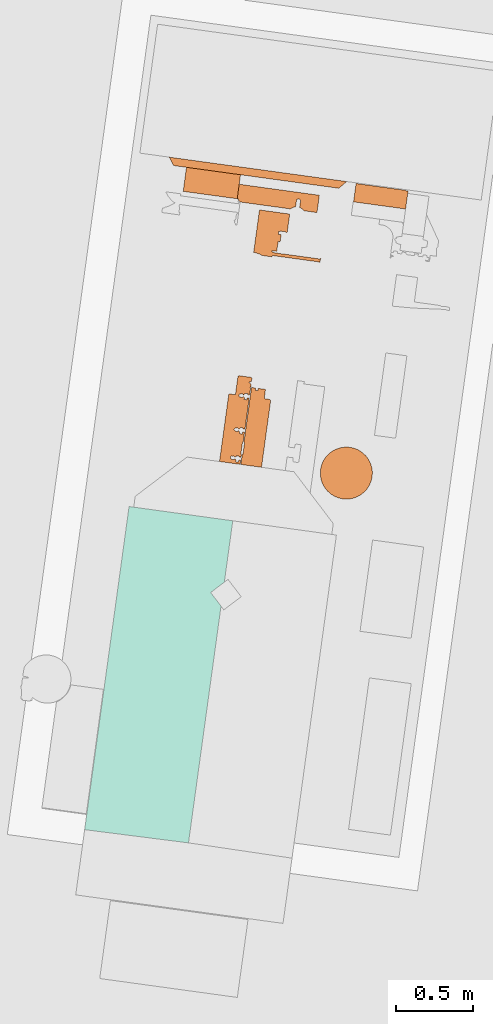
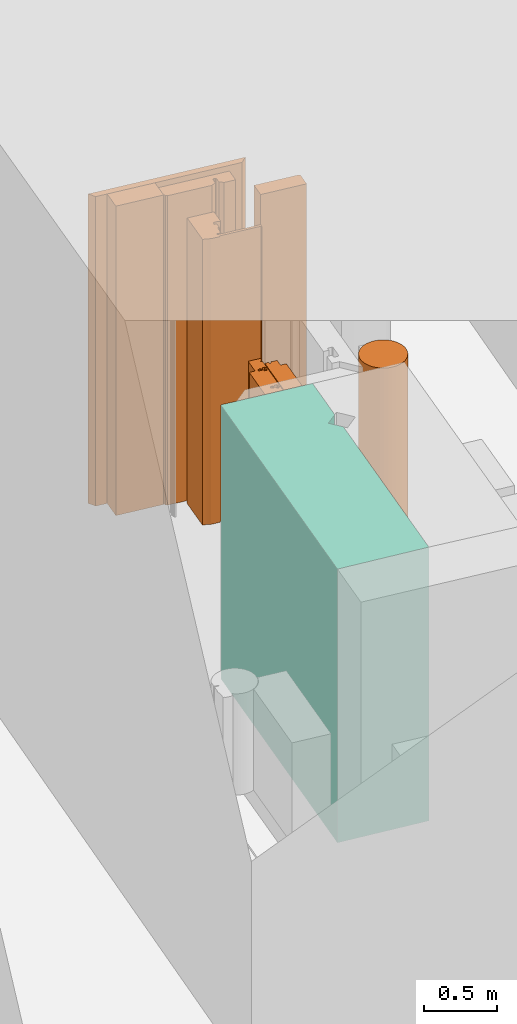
# Not in any storey, part 55 of 75: 8 proxies, plus 1 element that does not belong to this part.
"""IFC4 model written with IfcOpenShell, lengths in metres."""

from ifc_helpers import new_model, si_unit, direction, origin_with_axes, place, context, subcontext, project, spatial, triangles, element, aggregate, save


model = new_model("IFC4")

# Units and contexts
model_context = context("Model", 3, precision=1e-05, world=origin_with_axes(), true_north=direction((0.0, 1.0)))
body_context = subcontext(model_context, "Body", "Model", "MODEL_VIEW")
ifc_project = project(units=[si_unit("AREAUNIT", "SQUARE_METRE"), si_unit("VOLUMEUNIT", "CUBIC_METRE"), si_unit("LENGTHUNIT", "METRE")], contexts=[model_context])

# Site
site_placement = place(None, origin_with_axes())
site = spatial("IfcSite", under=ifc_project, at=site_placement, Name="Parcela industrial Jinhong")

# Compressor, proxies
compressor_placement = place(site_placement, origin_with_axes())
compressor = element("IfcCompressor", 1, at=compressor_placement, inside=site, Name="Compresor de aire AC1001C · Carcasa principal · región CAD 1", ObjectType="Envolvente de equipo", PredefinedType="USERDEFINED", context=body_context, shape_type="Tessellation", body=[
    triangles([(62.203534, 71.486232, 3.95), (61.527692, 71.57915, 3.95), (62.148549, 71.086294, 3.95), (61.527692, 71.57915, 1.65), (62.203534, 71.486232, 1.65), (62.148549, 71.086294, 1.65), (61.238041, 69.472368, 3.95), (61.914823, 69.386286, 3.95), (61.914823, 69.386286, 1.65), (61.238041, 69.472368, 1.65), (62.059412, 71.018705, 3.95), (62.127001, 70.929568, 3.95), (62.127001, 70.929568, 1.65), (62.059412, 71.018705, 1.65)], [[1, 2, 3], [4, 5, 6], [2, 7, 8], [9, 10, 4], [8, 12, 11], [13, 9, 14], [3, 2, 11], [4, 6, 14], [2, 8, 11], [14, 9, 4], [4, 10, 7], [4, 7, 2], [10, 9, 8], [10, 8, 7], [9, 13, 12], [9, 12, 8], [11, 13, 14], [11, 12, 13], [14, 6, 3], [14, 3, 11], [6, 5, 1], [1, 3, 6], [5, 4, 2], [5, 2, 1]], closed=True),
])
proxy_1_placement = place(compressor_placement, origin_with_axes())
proxy_1 = element("IfcBuildingElementProxy", 2, at=proxy_1_placement, Name="Compresor de aire AC1001C · Cuerpo de equipo · región CAD 14", context=body_context, shape_type="Tessellation", body=[
    triangles([(62.318886, 72.394989, 3.55), (62.311365, 72.391683, 3.55), (62.318409, 72.391522, 3.55), (62.311365, 72.391683, 1.65), (62.318886, 72.394989, 1.65), (62.318409, 72.391522, 1.65), (62.3288, 72.416439, 3.55), (62.319801, 72.395772, 3.55), (62.325844, 72.394941, 3.55), (62.3288, 72.416439, 1.65), (62.325844, 72.394941, 1.65), (62.319801, 72.395772, 1.65), (62.325125, 72.421284, 3.55), (62.244979, 72.432303, 3.55), (62.327908, 72.416561, 3.55), (62.244979, 72.432303, 1.65), (62.325125, 72.421284, 1.65), (62.327908, 72.416561, 1.65), (62.238681, 72.430545, 3.55), (62.237558, 72.428983, 3.55), (62.237558, 72.428983, 1.65), (62.238681, 72.430545, 1.65), (62.220982, 72.308417, 3.55), (62.184822, 72.313389, 3.55), (62.179439, 72.312413, 3.55), (62.179439, 72.312413, 1.65), (62.184822, 72.313389, 1.65), (62.220982, 72.308417, 1.65), (62.177424, 72.310974, 3.55), (62.117168, 71.872697, 3.55), (62.117168, 71.872697, 1.65), (62.177424, 72.310974, 1.65), (62.255168, 71.880877, 3.55), (62.245756, 71.882171, 3.55), (62.251504, 71.854227, 3.55), (62.245756, 71.882171, 1.65), (62.255168, 71.880877, 1.65), (62.251504, 71.854227, 1.65), (62.245525, 71.880487, 3.55), (62.242057, 71.880963, 3.55), (62.240396, 71.868877, 3.55), (62.242057, 71.880963, 1.65), (62.245525, 71.880487, 1.65), (62.240396, 71.868877, 1.65), (62.223928, 71.883456, 3.55), (62.2199, 71.885726, 3.55), (62.222266, 71.87137, 3.55), (62.2199, 71.885726, 1.65), (62.223928, 71.883456, 1.65), (62.222266, 71.87137, 1.65), (62.220376, 71.889193, 3.55), (62.21375, 71.890104, 3.55), (62.21375, 71.890104, 1.65), (62.220376, 71.889193, 1.65), (62.20309, 71.884605, 3.55), (62.198402, 71.888681, 3.55), (62.192359, 71.889512, 3.55), (62.192359, 71.889512, 1.65), (62.198402, 71.888681, 1.65), (62.20309, 71.884605, 1.65), (62.202933, 71.909155, 3.55), (62.194851, 71.907642, 3.55), (62.200894, 71.906811, 3.55), (62.194851, 71.907642, 1.65), (62.202933, 71.909155, 1.65), (62.200894, 71.906811, 1.65), (62.222038, 71.901279, 3.55), (62.212443, 71.907847, 3.55), (62.215103, 71.902233, 3.55), (62.212443, 71.907847, 1.65), (62.222038, 71.901279, 1.65), (62.215103, 71.902233, 1.65), (62.227714, 71.910997, 3.55), (62.222624, 71.905539, 3.55), (62.226884, 71.904954, 3.55), (62.227714, 71.910997, 1.65), (62.226884, 71.904954, 1.65), (62.222624, 71.905539, 1.65), (62.245844, 71.908504, 3.55), (62.245013, 71.902461, 3.55), (62.24848, 71.901984, 3.55), (62.245844, 71.908504, 1.65), (62.24848, 71.901984, 1.65), (62.245013, 71.902461, 1.65), (62.257783, 71.899898, 3.55), (62.248371, 71.901192, 3.55), (62.248371, 71.901192, 1.65), (62.257783, 71.899898, 1.65), (62.260493, 71.919612, 3.55), (62.256233, 71.920198, 3.55), (62.256233, 71.920198, 1.65), (62.260493, 71.919612, 1.65), (62.280379, 72.064252, 3.55), (62.26713, 71.999453, 3.55), (62.27139, 71.998867, 3.55), (62.280379, 72.064252, 1.65), (62.27139, 71.998867, 1.65), (62.26713, 71.999453, 1.65), (62.270968, 72.065546, 3.55), (62.267269, 72.064338, 3.55), (62.267269, 72.064338, 1.65), (62.270968, 72.065546, 1.65), (62.249139, 72.066831, 3.55), (62.245111, 72.069101, 3.55), (62.247478, 72.054745, 3.55), (62.245111, 72.069101, 1.65), (62.249139, 72.066831, 1.65), (62.247478, 72.054745, 1.65), (62.245588, 72.072568, 3.55), (62.238927, 72.073484, 3.55), (62.238927, 72.073484, 1.65), (62.245588, 72.072568, 1.65), (62.228302, 72.06798, 3.55), (62.223613, 72.072056, 3.55), (62.21757, 72.072887, 3.55), (62.21757, 72.072887, 1.65), (62.223613, 72.072056, 1.65), (62.228302, 72.06798, 1.65), (62.228144, 72.09253, 3.55), (62.220063, 72.091017, 3.55), (62.226106, 72.090186, 3.55), (62.220063, 72.091017, 1.65), (62.228144, 72.09253, 1.65), (62.226106, 72.090186, 1.65), (62.247249, 72.084654, 3.55), (62.237655, 72.091222, 3.55), (62.240315, 72.085608, 3.55), (62.237655, 72.091222, 1.65), (62.247249, 72.084654, 1.65), (62.240315, 72.085608, 1.65), (62.252926, 72.094372, 3.55), (62.247835, 72.088914, 3.55), (62.252095, 72.088329, 3.55), (62.252926, 72.094372, 1.65), (62.252095, 72.088329, 1.65), (62.247835, 72.088914, 1.65), (62.271055, 72.091879, 3.55), (62.270224, 72.085836, 3.55), (62.273692, 72.085359, 3.55), (62.271055, 72.091879, 1.65), (62.273692, 72.085359, 1.65), (62.270224, 72.085836, 1.65), (62.282994, 72.083273, 3.55), (62.273583, 72.084567, 3.55), (62.273583, 72.084567, 1.65), (62.282994, 72.083273, 1.65), (62.311039, 72.287254, 3.55), (62.301627, 72.288548, 3.55), (62.301627, 72.288548, 1.65), (62.311039, 72.287254, 1.65), (62.297928, 72.287341, 3.55), (62.296267, 72.275254, 3.55), (62.296267, 72.275254, 1.65), (62.297928, 72.287341, 1.65), (62.279799, 72.289833, 3.55), (62.27577, 72.292103, 3.55), (62.278137, 72.277747, 3.55), (62.27577, 72.292103, 1.65), (62.279799, 72.289833, 1.65), (62.278137, 72.277747, 1.65), (62.276125, 72.294679, 3.55), (62.269464, 72.295594, 3.55), (62.269464, 72.295594, 1.65), (62.276125, 72.294679, 1.65), (62.254956, 72.294157, 3.55), (62.248913, 72.294988, 3.55), (62.255603, 72.292251, 3.55), (62.248913, 72.294988, 1.65), (62.254956, 72.294157, 1.65), (62.255603, 72.292251, 1.65), (62.249022, 72.29578, 3.55), (62.246446, 72.296135, 3.55), (62.246446, 72.296135, 1.65), (62.249022, 72.29578, 1.65), (62.25768, 72.313971, 3.55), (62.250599, 72.313127, 3.55), (62.257558, 72.313079, 3.55), (62.250599, 72.313127, 1.65), (62.25768, 72.313971, 1.65), (62.257558, 72.313079, 1.65), (62.277786, 72.306765, 3.55), (62.268191, 72.313333, 3.55), (62.270851, 72.307718, 3.55), (62.268191, 72.313333, 1.65), (62.277786, 72.306765, 1.65), (62.270851, 72.307718, 1.65), (62.283585, 72.317374, 3.55), (62.278495, 72.311917, 3.55), (62.282754, 72.311331, 3.55), (62.283585, 72.317374, 1.65), (62.282754, 72.311331, 1.65), (62.278495, 72.311917, 1.65), (62.301715, 72.314882, 3.55), (62.300884, 72.308838, 3.55), (62.304351, 72.308362, 3.55), (62.301715, 72.314882, 1.65), (62.304351, 72.308362, 1.65), (62.300884, 72.308838, 1.65), (62.313531, 72.305384, 3.55), (62.30412, 72.306677, 3.55), (62.30412, 72.306677, 1.65), (62.313531, 72.305384, 1.65), (62.320518, 72.356205, 3.55), (62.314475, 72.357036, 3.55), (62.314475, 72.357036, 1.65), (62.320518, 72.356205, 1.65), (62.32406, 72.381963, 3.55), (62.314584, 72.357829, 3.55), (62.320627, 72.356998, 3.55), (62.32406, 72.381963, 1.65), (62.320627, 72.356998, 1.65), (62.314584, 72.357829, 1.65), (62.323168, 72.382086, 3.55), (62.322814, 72.37951, 3.55), (62.322814, 72.37951, 1.65), (62.323168, 72.382086, 1.65), (62.317347, 72.383795, 3.55), (62.314771, 72.384149, 3.55), (62.316993, 72.381219, 3.55), (62.314771, 72.384149, 1.65), (62.317347, 72.383795, 1.65), (62.316993, 72.381219, 1.65), (62.258839, 72.29009, 3.55), (62.258839, 72.29009, 1.65), (62.262393, 72.315947, 3.55), (62.262393, 72.315947, 1.65), (62.265762, 72.315484, 3.55), (62.265762, 72.315484, 1.65), (62.317662, 72.380218, 3.55), (62.317662, 72.380218, 1.65), (62.212295, 71.88768, 3.55), (62.212295, 71.88768, 1.65), (62.208316, 71.910131, 3.55), (62.208316, 71.910131, 1.65), (62.237506, 72.071055, 3.55), (62.237506, 72.071055, 1.65), (62.233527, 72.093506, 3.55), (62.233527, 72.093506, 1.65), (62.268043, 72.293165, 3.55), (62.268043, 72.293165, 1.65), (62.311535, 72.38631, 3.55), (62.311535, 72.38631, 1.65), (62.209365, 71.885458, 3.55), (62.209365, 71.885458, 1.65), (62.265607, 72.052252, 3.55), (62.265607, 72.052252, 1.65), (62.234576, 72.068833, 3.55), (62.234576, 72.068833, 1.65), (62.265113, 72.290944, 3.55), (62.265113, 72.290944, 1.65), (62.310766, 72.387324, 3.55), (62.310766, 72.387324, 1.65), (62.205666, 71.884251, 3.55), (62.205666, 71.884251, 1.65), (62.230877, 72.067626, 3.55), (62.230877, 72.067626, 1.65), (62.261414, 72.289736, 3.55), (62.261414, 72.289736, 1.65), (62.215349, 72.08904, 3.55), (62.215349, 72.08904, 1.65), (62.245886, 72.311151, 3.55), (62.245886, 72.311151, 1.65), (62.190698, 71.890649, 3.55), (62.190698, 71.890649, 1.65), (62.190138, 71.905665, 3.55), (62.190138, 71.905665, 1.65), (62.188476, 71.893579, 3.55), (62.188476, 71.893579, 1.65), (62.187623, 71.899854, 3.55), (62.187623, 71.899854, 1.65), (62.212834, 72.083229, 3.55), (62.212834, 72.083229, 1.65), (62.243371, 72.305339, 3.55), (62.243371, 72.305339, 1.65), (62.244225, 72.299064, 3.55), (62.244225, 72.299064, 1.65), (62.213579, 72.076161, 3.55), (62.213579, 72.076161, 1.65)], [[1, 2, 3], [4, 5, 6], [7, 8, 9], [10, 11, 12], [13, 14, 15], [16, 17, 18], [14, 19, 20], [21, 22, 16], [23, 24, 25], [26, 27, 28], [25, 29, 30], [31, 32, 26], [33, 34, 35], [36, 37, 38], [39, 40, 41], [42, 43, 44], [45, 46, 47], [48, 49, 50], [46, 51, 52], [53, 54, 48], [55, 56, 57], [58, 59, 60], [61, 62, 63], [64, 65, 66], [67, 68, 69], [70, 71, 72], [73, 74, 75], [76, 77, 78], [79, 80, 81], [82, 83, 84], [86, 85, 81], [87, 83, 88], [85, 89, 90], [91, 92, 88], [93, 94, 95], [96, 97, 98], [93, 99, 100], [101, 102, 96], [103, 104, 105], [106, 107, 108], [104, 109, 110], [111, 112, 106], [113, 114, 115], [116, 117, 118], [119, 120, 121], [122, 123, 124], [125, 126, 127], [128, 129, 130], [131, 132, 133], [134, 135, 136], [137, 138, 139], [140, 141, 142], [144, 143, 139], [145, 141, 146], [143, 147, 148], [149, 150, 146], [148, 151, 152], [153, 154, 149], [155, 156, 157], [158, 159, 160], [156, 161, 162], [163, 164, 158], [165, 166, 167], [168, 169, 170], [166, 171, 172], [173, 174, 168], [175, 176, 177], [178, 179, 180], [181, 182, 183], [184, 185, 186], [187, 188, 189], [190, 191, 192], [193, 194, 195], [196, 197, 198], [200, 199, 195], [201, 197, 202], [199, 203, 204], [205, 206, 202], [207, 208, 209], [210, 211, 212], [207, 213, 214], [215, 216, 210], [217, 218, 219], [220, 221, 222], [8, 2, 1], [5, 4, 12], [8, 7, 15], [12, 18, 10], [15, 14, 20], [21, 16, 18], [23, 25, 30], [31, 26, 28], [39, 35, 34], [43, 36, 38], [47, 46, 52], [50, 53, 48], [74, 68, 67], [71, 70, 78], [81, 85, 79], [83, 82, 88], [94, 93, 100], [98, 101, 96], [105, 104, 110], [108, 111, 106], [132, 126, 125], [129, 128, 136], [139, 143, 137], [141, 140, 146], [143, 148, 152], [153, 149, 146], [157, 156, 162], [160, 163, 158], [167, 166, 223], [170, 224, 168], [225, 176, 175], [179, 178, 226], [182, 181, 227], [228, 185, 184], [195, 199, 193], [197, 196, 202], [214, 208, 207], [215, 210, 212], [219, 218, 229], [222, 230, 220], [2, 8, 15], [18, 12, 4], [15, 20, 23], [28, 21, 18], [41, 35, 39], [38, 44, 43], [231, 47, 52], [50, 232, 53], [74, 233, 68], [70, 234, 78], [79, 85, 90], [91, 88, 82], [94, 100, 90], [98, 91, 101], [235, 105, 110], [108, 236, 111], [132, 237, 126], [128, 238, 136], [137, 143, 152], [153, 146, 140], [239, 157, 162], [160, 240, 163], [172, 223, 166], [168, 224, 173], [188, 227, 181], [185, 228, 192], [193, 199, 204], [205, 202, 196], [208, 214, 229], [230, 215, 212], [218, 241, 229], [230, 242, 220], [2, 15, 23], [28, 18, 4], [35, 41, 30], [38, 31, 44], [47, 231, 243], [244, 232, 50], [74, 73, 233], [78, 234, 76], [79, 90, 73], [82, 76, 91], [90, 100, 245], [246, 101, 91], [105, 235, 247], [248, 236, 108], [132, 131, 237], [136, 238, 134], [131, 137, 152], [153, 140, 134], [157, 239, 249], [250, 240, 160], [188, 187, 227], [192, 228, 190], [187, 193, 204], [205, 196, 190], [208, 229, 241], [242, 230, 212], [251, 2, 23], [28, 4, 252], [41, 47, 30], [31, 50, 44], [47, 243, 253], [254, 244, 50], [90, 233, 73], [76, 234, 91], [90, 245, 105], [108, 246, 91], [105, 247, 255], [256, 248, 108], [237, 131, 152], [134, 238, 153], [157, 249, 257], [258, 250, 160], [227, 187, 225], [226, 190, 228], [204, 208, 187], [205, 190, 212], [241, 251, 208], [242, 212, 252], [47, 253, 30], [31, 254, 50], [90, 61, 233], [234, 65, 91], [90, 105, 255], [256, 108, 91], [119, 237, 152], [238, 123, 153], [157, 257, 223], [224, 258, 160], [208, 225, 187], [190, 226, 212], [208, 251, 23], [212, 28, 252], [253, 55, 30], [31, 60, 254], [90, 62, 61], [65, 64, 91], [90, 255, 113], [118, 256, 91], [152, 120, 119], [123, 122, 153], [172, 157, 223], [224, 160, 173], [208, 176, 225], [226, 178, 212], [55, 57, 30], [31, 58, 60], [62, 90, 113], [118, 91, 64], [259, 120, 152], [122, 260, 153], [208, 261, 176], [178, 262, 212], [57, 263, 30], [31, 264, 58], [265, 62, 113], [64, 266, 118], [259, 152, 157], [160, 153, 260], [261, 208, 23], [28, 212, 262], [263, 267, 30], [264, 31, 268], [265, 113, 269], [266, 270, 118], [259, 157, 271], [260, 272, 160], [273, 261, 23], [28, 262, 274], [267, 269, 30], [268, 31, 270], [269, 113, 115], [116, 118, 270], [271, 157, 172], [173, 160, 272], [275, 273, 23], [28, 274, 276], [23, 30, 269], [270, 31, 28], [269, 115, 277], [270, 278, 116], [271, 172, 275], [276, 173, 272], [271, 269, 277], [278, 270, 272], [271, 275, 23], [272, 28, 276], [23, 269, 271], [272, 270, 28], [6, 5, 1], [1, 3, 6], [8, 5, 12], [8, 1, 5], [12, 11, 9], [12, 9, 8], [11, 10, 7], [7, 9, 11], [15, 10, 18], [15, 7, 10], [18, 17, 13], [13, 15, 18], [17, 16, 14], [17, 14, 13], [19, 16, 22], [19, 14, 16], [22, 21, 20], [22, 20, 19], [21, 28, 23], [21, 23, 20], [28, 27, 24], [28, 24, 23], [27, 26, 25], [27, 25, 24], [29, 26, 32], [29, 25, 26], [32, 31, 30], [32, 30, 29], [35, 31, 38], [35, 30, 31], [38, 37, 33], [33, 35, 38], [37, 36, 34], [37, 34, 33], [36, 43, 39], [36, 39, 34], [43, 42, 40], [43, 40, 39], [41, 42, 44], [42, 41, 40], [47, 44, 50], [47, 41, 44], [50, 49, 45], [45, 47, 50], [49, 48, 46], [49, 46, 45], [48, 54, 51], [48, 51, 46], [54, 53, 52], [54, 52, 51], [53, 232, 231], [53, 231, 52], [243, 232, 244], [243, 231, 232], [253, 244, 254], [253, 243, 244], [254, 60, 55], [254, 55, 253], [60, 59, 56], [60, 56, 55], [59, 58, 57], [59, 57, 56], [263, 58, 264], [263, 57, 58], [264, 268, 267], [264, 267, 263], [268, 270, 269], [268, 269, 267], [270, 266, 265], [270, 265, 269], [266, 64, 62], [266, 62, 265], [63, 64, 66], [64, 63, 62], [66, 65, 61], [61, 63, 66], [233, 65, 234], [233, 61, 65], [234, 70, 68], [234, 68, 233], [69, 70, 72], [70, 69, 68], [72, 71, 67], [67, 69, 72], [71, 78, 74], [71, 74, 67], [78, 77, 75], [78, 75, 74], [77, 76, 73], [73, 75, 77], [79, 76, 82], [79, 73, 76], [80, 82, 84], [82, 80, 79], [84, 83, 81], [84, 81, 80], [83, 87, 86], [83, 86, 81], [85, 87, 88], [85, 86, 87], [88, 92, 89], [88, 89, 85], [92, 91, 90], [92, 90, 89], [91, 98, 94], [91, 94, 90], [98, 97, 95], [98, 95, 94], [97, 96, 93], [93, 95, 97], [99, 96, 102], [99, 93, 96], [102, 101, 100], [102, 100, 99], [101, 246, 245], [101, 245, 100], [246, 108, 105], [246, 105, 245], [108, 107, 103], [103, 105, 108], [107, 106, 104], [107, 104, 103], [106, 112, 109], [106, 109, 104], [112, 111, 110], [112, 110, 109], [111, 236, 235], [111, 235, 110], [247, 236, 248], [247, 235, 236], [255, 248, 256], [255, 247, 248], [256, 118, 113], [256, 113, 255], [118, 117, 114], [118, 114, 113], [117, 116, 115], [117, 115, 114], [277, 116, 278], [277, 115, 116], [278, 272, 271], [278, 271, 277], [272, 260, 259], [272, 259, 271], [260, 122, 120], [260, 120, 259], [121, 122, 124], [122, 121, 120], [124, 123, 119], [119, 121, 124], [237, 123, 238], [237, 119, 123], [238, 128, 126], [238, 126, 237], [127, 128, 130], [128, 127, 126], [130, 129, 125], [125, 127, 130], [129, 136, 132], [129, 132, 125], [136, 135, 133], [136, 133, 132], [135, 134, 131], [131, 133, 135], [137, 134, 140], [137, 131, 134], [138, 140, 142], [140, 138, 137], [142, 141, 139], [142, 139, 138], [141, 145, 144], [141, 144, 139], [143, 145, 146], [143, 144, 145], [146, 150, 147], [146, 147, 143], [150, 149, 148], [150, 148, 147], [151, 149, 154], [151, 148, 149], [154, 153, 152], [154, 152, 151], [157, 153, 160], [157, 152, 153], [160, 159, 155], [155, 157, 160], [159, 158, 156], [159, 156, 155], [158, 164, 161], [158, 161, 156], [164, 163, 162], [164, 162, 161], [163, 240, 239], [163, 239, 162], [249, 240, 250], [249, 239, 240], [257, 250, 258], [257, 249, 250], [258, 224, 223], [258, 223, 257], [224, 170, 167], [224, 167, 223], [170, 169, 165], [165, 167, 170], [169, 168, 166], [169, 166, 165], [168, 174, 171], [168, 171, 166], [174, 173, 172], [174, 172, 171], [173, 276, 275], [173, 275, 172], [276, 274, 273], [276, 273, 275], [274, 262, 261], [274, 261, 273], [262, 178, 176], [262, 176, 261], [177, 178, 180], [178, 177, 176], [180, 179, 175], [175, 177, 180], [225, 179, 226], [225, 175, 179], [227, 226, 228], [227, 225, 226], [228, 184, 182], [228, 182, 227], [183, 184, 186], [184, 183, 182], [186, 185, 181], [181, 183, 186], [185, 192, 188], [185, 188, 181], [192, 191, 189], [192, 189, 188], [191, 190, 187], [187, 189, 191], [193, 190, 196], [193, 187, 190], [194, 196, 198], [196, 194, 193], [198, 197, 195], [198, 195, 194], [197, 201, 200], [197, 200, 195], [199, 201, 202], [199, 200, 201], [202, 206, 203], [202, 203, 199], [206, 205, 204], [206, 204, 203], [205, 212, 208], [205, 208, 204], [212, 211, 209], [212, 209, 208], [211, 210, 207], [207, 209, 211], [213, 210, 216], [213, 207, 210], [216, 215, 214], [216, 214, 213], [229, 215, 230], [229, 214, 215], [230, 222, 219], [230, 219, 229], [222, 221, 217], [217, 219, 222], [221, 220, 218], [221, 218, 217], [241, 220, 242], [241, 218, 220], [242, 252, 251], [242, 251, 241], [252, 4, 2], [252, 2, 251], [3, 4, 6], [4, 3, 2]], closed=True),
])
proxy_2_placement = place(compressor_placement, origin_with_axes())
proxy_2 = element("IfcBuildingElementProxy", 3, at=proxy_2_placement, Name="Compresor de aire AC1001C · Cuerpo de equipo · región CAD 15", context=body_context, shape_type="Tessellation", body=[
    triangles([(62.37134, 72.349218, 3.55), (62.36841, 72.346997, 3.55), (62.366803, 72.335307, 3.55), (62.36841, 72.346997, 1.65), (62.37134, 72.349218, 1.65), (62.366803, 72.335307, 1.65), (62.353211, 72.351711, 3.55), (62.352141, 72.337322, 3.55), (62.353748, 72.349012, 3.55), (62.352141, 72.337322, 1.65), (62.353211, 72.351711, 1.65), (62.353748, 72.349012, 1.65), (62.32567, 72.355497, 3.55), (62.276541, 71.998159, 3.55), (62.276541, 71.998159, 1.65), (62.32567, 72.355497, 1.65), (62.270004, 71.918305, 3.55), (62.265645, 71.918904, 3.55), (62.256655, 71.853519, 3.55), (62.265645, 71.918904, 1.65), (62.270004, 71.918305, 1.65), (62.256655, 71.853519, 1.65), (62.451248, 72.273327, 3.55), (62.390992, 71.83505, 3.55), (62.390992, 71.83505, 1.65), (62.451248, 72.273327, 1.65), (62.444876, 72.277635, 3.55), (62.408716, 72.282607, 3.55), (62.408716, 72.282607, 1.65), (62.444876, 72.277635, 1.65), (62.417011, 72.342939, 3.55), (62.417011, 72.342939, 1.65), (62.2809, 71.997559, 3.55), (62.2809, 71.997559, 1.65)], [[1, 2, 3], [4, 5, 6], [7, 8, 9], [10, 11, 12], [7, 13, 14], [15, 16, 11], [17, 18, 19], [20, 21, 22], [19, 24, 23], [25, 22, 26], [23, 27, 28], [29, 30, 26], [28, 31, 1], [29, 5, 32], [8, 7, 14], [10, 15, 11], [17, 19, 23], [21, 26, 22], [3, 28, 1], [29, 6, 5], [3, 8, 14], [15, 10, 6], [33, 17, 23], [26, 21, 34], [14, 28, 3], [6, 29, 15], [14, 33, 23], [34, 15, 26], [23, 28, 14], [15, 29, 26], [8, 6, 10], [8, 3, 6], [9, 10, 12], [10, 9, 8], [12, 11, 7], [7, 9, 12], [13, 11, 16], [13, 7, 11], [16, 15, 14], [16, 14, 13], [33, 15, 34], [33, 14, 15], [34, 21, 17], [34, 17, 33], [21, 20, 18], [21, 18, 17], [19, 20, 22], [20, 19, 18], [24, 22, 25], [24, 19, 22], [23, 25, 26], [23, 24, 25], [27, 26, 30], [27, 23, 26], [30, 29, 28], [30, 28, 27], [29, 32, 31], [29, 31, 28], [32, 5, 1], [32, 1, 31], [5, 4, 2], [5, 2, 1], [3, 4, 6], [4, 3, 2]], closed=True),
])
proxy_3_placement = place(compressor_placement, origin_with_axes())
proxy_3 = element("IfcBuildingElementProxy", 4, at=proxy_3_placement, Name="Compresor de aire AC1001C · Cuerpo de equipo · región CAD 17", context=body_context, shape_type="Tessellation", body=[
    triangles([(62.241199, 73.584657, 4.25), (62.240028, 73.576137, 4.25), (62.251599, 73.564856, 4.25), (62.241199, 73.584657, 1.65), (62.251599, 73.564856, 1.65), (62.240028, 73.576137, 1.65), (62.589172, 73.52541, 4.25), (62.579614, 73.519759, 4.25), (62.579614, 73.519759, 1.65), (62.589172, 73.52541, 1.65), (62.618549, 73.573154, 4.25), (62.599514, 73.530145, 4.25), (62.613223, 73.534418, 4.25), (62.618549, 73.573154, 1.65), (62.613223, 73.534418, 1.65), (62.599514, 73.530145, 1.65), (62.645297, 73.569476, 4.25), (62.639972, 73.53074, 4.25), (62.651128, 73.523049, 4.25), (62.645297, 73.569476, 1.65), (62.651128, 73.523049, 1.65), (62.639972, 73.53074, 1.65), (62.752686, 73.495964, 4.25), (62.659808, 73.515698, 4.25), (62.667487, 73.507678, 4.25), (62.659808, 73.515698, 1.65), (62.752686, 73.495964, 1.65), (62.667487, 73.507678, 1.65), (62.768186, 73.608704, 4.25), (62.245601, 73.680551, 4.25), (62.23258, 73.585842, 4.25), (62.245601, 73.680551, 1.65), (62.768186, 73.608704, 1.65), (62.23258, 73.585842, 1.65), (62.644345, 73.575764, 4.25), (62.644345, 73.575764, 1.65), (62.620271, 73.579074, 4.25), (62.620271, 73.579074, 1.65), (62.623324, 73.582187, 4.25), (62.623324, 73.582187, 1.65), (62.642246, 73.579586, 4.25), (62.642246, 73.579586, 1.65), (62.628061, 73.585069, 4.25), (62.628061, 73.585069, 1.65), (62.638463, 73.583639, 4.25), (62.638463, 73.583639, 1.65), (62.633321, 73.585153, 4.25), (62.633321, 73.585153, 1.65)], [[1, 2, 3], [4, 5, 6], [8, 7, 3], [9, 5, 10], [11, 12, 13], [14, 15, 16], [17, 18, 19], [20, 21, 22], [23, 24, 25], [26, 27, 28], [29, 30, 31], [32, 33, 34], [3, 7, 1], [5, 4, 10], [7, 12, 11], [16, 10, 14], [17, 19, 24], [20, 26, 21], [29, 24, 23], [27, 26, 33], [29, 31, 1], [34, 33, 4], [7, 11, 1], [10, 4, 14], [24, 35, 17], [20, 36, 26], [11, 37, 1], [14, 4, 38], [29, 35, 24], [26, 36, 33], [37, 39, 1], [38, 4, 40], [35, 29, 41], [36, 42, 33], [39, 43, 1], [40, 4, 44], [41, 29, 45], [42, 46, 33], [29, 1, 43], [44, 4, 33], [45, 29, 47], [46, 48, 33], [29, 43, 47], [48, 44, 33], [8, 5, 9], [8, 3, 5], [7, 9, 10], [7, 8, 9], [12, 10, 16], [12, 7, 10], [16, 15, 13], [16, 13, 12], [15, 14, 11], [11, 13, 15], [14, 38, 37], [14, 37, 11], [38, 40, 39], [38, 39, 37], [43, 40, 44], [43, 39, 40], [47, 44, 48], [47, 43, 44], [48, 46, 45], [48, 45, 47], [46, 42, 41], [46, 41, 45], [42, 36, 35], [42, 35, 41], [36, 20, 17], [36, 17, 35], [18, 20, 22], [20, 18, 17], [22, 21, 19], [22, 19, 18], [24, 21, 26], [24, 19, 21], [25, 26, 28], [26, 25, 24], [28, 27, 23], [23, 25, 28], [27, 33, 29], [27, 29, 23], [33, 32, 30], [33, 30, 29], [31, 32, 34], [32, 31, 30], [34, 4, 1], [34, 1, 31], [2, 4, 6], [4, 2, 1], [6, 5, 3], [6, 3, 2]], closed=True),
])
proxy_4_placement = place(compressor_placement, origin_with_axes())
proxy_4 = element("IfcBuildingElementProxy", 5, at=proxy_4_placement, Name="Compresor de aire AC1001C · Cuerpo de equipo · región CAD 18", context=body_context, shape_type="Tessellation", body=[
    triangles([(62.946345, 73.698272, 4.25), (61.789131, 73.857372, 4.25), (62.895495, 73.654389, 4.25), (61.789131, 73.857372, 1.65), (62.946345, 73.698272, 1.65), (62.895495, 73.654389, 1.65), (61.817634, 73.802579, 4.25), (61.817634, 73.802579, 1.65)], [[1, 2, 3], [4, 5, 6], [3, 2, 7], [8, 4, 6], [4, 8, 7], [4, 7, 2], [8, 6, 3], [8, 3, 7], [6, 5, 1], [1, 3, 6], [5, 4, 2], [5, 2, 1]], closed=True),
])
proxy_5_placement = place(compressor_placement, origin_with_axes())
proxy_5 = element("IfcBuildingElementProxy", 6, at=proxy_5_placement, Name="Compresor de aire AC1001C · Cuerpo de equipo · región CAD 19", context=body_context, shape_type="Tessellation", body=[
    triangles([(62.254128, 73.742568, 4.25), (61.901941, 73.790988, 4.25), (62.23258, 73.585842, 4.25), (61.901941, 73.790988, 1.65), (62.254128, 73.742568, 1.65), (62.23258, 73.585842, 1.65), (61.880393, 73.634263, 4.25), (61.880393, 73.634263, 1.65)], [[1, 2, 3], [4, 5, 6], [3, 2, 7], [8, 4, 6], [4, 8, 7], [4, 7, 2], [8, 6, 3], [8, 3, 7], [6, 5, 1], [1, 3, 6], [5, 4, 2], [5, 2, 1]], closed=True),
])
proxy_6_placement = place(compressor_placement, origin_with_axes())
proxy_6 = element("IfcBuildingElementProxy", 7, at=proxy_6_placement, Name="Compresor de aire AC1001C · Cuerpo de equipo · región CAD 20", context=body_context, shape_type="Tessellation", body=[
    triangles([(62.574996, 73.486175, 4.05), (62.377851, 73.51328, 4.05), (62.339836, 73.236782, 4.05), (62.377851, 73.51328, 1.65), (62.574996, 73.486175, 1.65), (62.339836, 73.236782, 1.65), (62.460329, 73.207193, 4.05), (62.380563, 73.223913, 4.05), (62.395691, 73.21608, 4.05), (62.380563, 73.223913, 1.65), (62.460329, 73.207193, 1.65), (62.395691, 73.21608, 1.65), (62.768922, 73.173548, 4.05), (62.76786, 73.165821, 4.05), (62.769479, 73.165598, 4.05), (62.768922, 73.173548, 1.65), (62.769479, 73.165598, 1.65), (62.76786, 73.165821, 1.65), (62.777815, 73.195138, 4.05), (62.771878, 73.195046, 4.05), (62.771878, 73.195046, 1.65), (62.777815, 73.195138, 1.65), (62.771647, 73.193362, 4.05), (62.533091, 73.22616, 4.05), (62.527816, 73.225976, 4.05), (62.527816, 73.225976, 1.65), (62.533091, 73.22616, 1.65), (62.771647, 73.193362, 1.65), (62.513277, 73.228884, 4.05), (62.464238, 73.235626, 4.05), (62.514046, 73.227869, 4.05), (62.464238, 73.235626, 1.65), (62.513277, 73.228884, 1.65), (62.514046, 73.227869, 1.65), (62.46447, 73.23731, 4.05), (62.461894, 73.237664, 4.05), (62.461894, 73.237664, 1.65), (62.46447, 73.23731, 1.65), (62.462017, 73.238556, 4.05), (62.458549, 73.239032, 4.05), (62.458549, 73.239032, 1.65), (62.462017, 73.238556, 1.65), (62.489728, 73.242619, 4.05), (62.487153, 73.242973, 4.05), (62.486809, 73.240475, 4.05), (62.487153, 73.242973, 1.65), (62.489728, 73.242619, 1.65), (62.486809, 73.240475, 1.65), (62.518866, 73.351768, 4.05), (62.500392, 73.306966, 4.05), (62.512478, 73.305305, 4.05), (62.518866, 73.351768, 1.65), (62.512478, 73.305305, 1.65), (62.500392, 73.306966, 1.65), (62.51501, 73.37511, 4.05), (62.503461, 73.374074, 4.05), (62.514656, 73.372535, 4.05), (62.503461, 73.374074, 1.65), (62.51501, 73.37511, 1.65), (62.514656, 73.372535, 1.65), (62.55775, 73.36661, 4.05), (62.544235, 73.371092, 4.05), (62.543881, 73.368517, 4.05), (62.544235, 73.371092, 1.65), (62.55775, 73.36661, 1.65), (62.543881, 73.368517, 1.65), (62.558104, 73.369185, 4.05), (62.558897, 73.369077, 4.05), (62.558897, 73.369077, 1.65), (62.558104, 73.369185, 1.65), (62.35384, 73.233644, 4.05), (62.35384, 73.233644, 1.65), (62.367382, 73.22936, 4.05), (62.367382, 73.22936, 1.65), (62.485591, 73.244096, 4.05), (62.485591, 73.244096, 1.65), (62.500737, 73.35426, 4.05), (62.500737, 73.35426, 1.65), (62.461514, 73.215812, 4.05), (62.461514, 73.215812, 1.65), (62.46231, 73.247297, 4.05), (62.46231, 73.247297, 1.65), (62.459612, 73.24676, 4.05), (62.459612, 73.24676, 1.65)], [[1, 2, 3], [4, 5, 6], [7, 8, 9], [10, 11, 12], [13, 14, 15], [16, 17, 18], [15, 19, 20], [21, 22, 17], [23, 24, 25], [26, 27, 28], [29, 30, 31], [32, 33, 34], [30, 35, 36], [37, 38, 32], [36, 39, 40], [41, 42, 37], [43, 44, 45], [46, 47, 48], [49, 50, 51], [52, 53, 54], [55, 56, 57], [58, 59, 60], [61, 62, 63], [64, 65, 66], [67, 68, 1], [5, 69, 70], [1, 3, 71], [5, 72, 6], [8, 7, 73], [74, 11, 10], [15, 20, 23], [28, 21, 17], [36, 40, 30], [37, 32, 41], [44, 43, 75], [76, 47, 46], [50, 49, 77], [54, 78, 52], [67, 62, 61], [65, 64, 70], [1, 71, 73], [74, 72, 5], [7, 79, 73], [74, 80, 11], [13, 15, 23], [16, 28, 17], [75, 43, 50], [47, 76, 54], [62, 67, 1], [5, 70, 64], [79, 13, 73], [74, 16, 80], [13, 23, 25], [26, 28, 16], [81, 75, 50], [54, 76, 82], [55, 62, 1], [5, 64, 59], [13, 25, 73], [74, 26, 16], [83, 81, 50], [54, 82, 84], [1, 56, 55], [59, 58, 5], [25, 31, 73], [74, 34, 26], [83, 50, 77], [54, 84, 78], [56, 1, 73], [58, 74, 5], [31, 30, 73], [74, 32, 34], [77, 56, 83], [78, 84, 58], [30, 40, 73], [74, 41, 32], [73, 83, 56], [58, 84, 74], [40, 83, 73], [74, 84, 41], [71, 6, 72], [71, 3, 6], [73, 72, 74], [73, 71, 72], [74, 10, 8], [74, 8, 73], [9, 10, 12], [10, 9, 8], [12, 11, 7], [7, 9, 12], [11, 80, 79], [11, 79, 7], [80, 16, 13], [80, 13, 79], [14, 16, 18], [16, 14, 13], [18, 17, 15], [18, 15, 14], [17, 22, 19], [17, 19, 15], [22, 21, 20], [22, 20, 19], [21, 28, 23], [21, 23, 20], [28, 27, 24], [28, 24, 23], [27, 26, 25], [27, 25, 24], [31, 26, 34], [31, 25, 26], [34, 33, 29], [29, 31, 34], [33, 32, 30], [33, 30, 29], [32, 38, 35], [32, 35, 30], [38, 37, 36], [38, 36, 35], [37, 42, 39], [37, 39, 36], [42, 41, 40], [42, 40, 39], [41, 84, 83], [41, 83, 40], [84, 82, 81], [84, 81, 83], [82, 76, 75], [82, 75, 81], [76, 46, 44], [76, 44, 75], [45, 46, 48], [46, 45, 44], [48, 47, 43], [43, 45, 48], [47, 54, 50], [47, 50, 43], [54, 53, 51], [54, 51, 50], [53, 52, 49], [49, 51, 53], [77, 52, 78], [77, 49, 52], [78, 58, 56], [78, 56, 77], [57, 58, 60], [58, 57, 56], [60, 59, 55], [55, 57, 60], [62, 59, 64], [62, 55, 59], [63, 64, 66], [64, 63, 62], [66, 65, 61], [61, 63, 66], [65, 70, 67], [65, 67, 61], [70, 69, 68], [70, 68, 67], [69, 5, 1], [69, 1, 68], [5, 4, 2], [5, 2, 1], [3, 4, 6], [4, 3, 2]], closed=True),
])
proxy_7_placement = place(compressor_placement, origin_with_axes())
proxy_7 = element("IfcBuildingElementProxy", 8, at=proxy_7_placement, Name="Compresor de aire AC1001C · Cuerpo de equipo · región CAD 24", context=body_context, shape_type="Tessellation", body=[
    triangles([(63.323911, 73.642022, 4.0), (63.007677, 73.6855, 4.0), (62.991224, 73.565825, 4.0), (63.007677, 73.6855, 1.65), (63.323911, 73.642022, 1.65), (62.991224, 73.565825, 1.65), (63.346509, 73.635382, 4.0), (63.330532, 73.519176, 4.0), (63.330532, 73.519176, 1.65), (63.346509, 73.635382, 1.65), (63.335314, 73.636922, 4.0), (63.335314, 73.636922, 1.65)], [[1, 2, 3], [4, 5, 6], [8, 7, 3], [9, 6, 10], [11, 1, 3], [6, 5, 12], [7, 11, 3], [6, 12, 10], [8, 6, 9], [8, 3, 6], [7, 9, 10], [7, 8, 9], [11, 10, 12], [11, 7, 10], [12, 5, 1], [12, 1, 11], [5, 4, 2], [5, 2, 1], [3, 4, 6], [4, 3, 2]], closed=True),
])
proxy_8_placement = place(compressor_placement, origin_with_axes())
proxy_8 = element("IfcBuildingElementProxy", 9, at=proxy_8_placement, Name="Compresor de aire AC1001C · Cuerpo de equipo · región CAD 25", context=body_context, shape_type="Tessellation", body=[
    triangles([(63.113944, 71.803588, 3.75), (63.105908, 71.745138, 3.75), (63.112502, 71.774009, 3.75), (63.105908, 71.745138, 1.65), (63.113944, 71.803588, 1.65), (63.112502, 71.774009, 1.65), (63.101478, 71.861223, 3.75), (63.110211, 71.83297, 3.75), (63.110211, 71.83297, 1.65), (63.101478, 71.861223, 1.65), (63.070101, 71.911263, 3.75), (63.087946, 71.887612, 3.75), (63.087946, 71.887612, 1.65), (63.070101, 71.911263, 1.65), (63.023495, 71.947448, 3.75), (63.048329, 71.931315, 3.75), (63.048329, 71.931315, 1.65), (63.023495, 71.947448, 1.65), (62.967326, 71.965466, 3.75), (62.996197, 71.958873, 3.75), (62.996197, 71.958873, 1.65), (62.967326, 71.965466, 1.65), (62.937747, 71.966909, 3.75), (62.908378, 71.963275, 3.75), (62.908378, 71.963275, 1.65), (62.937747, 71.966909, 1.65), (62.853736, 71.94101, 3.75), (62.880013, 71.954456, 3.75), (62.880013, 71.954456, 1.65), (62.853736, 71.94101, 1.65), (62.80992, 71.901308, 3.75), (62.830072, 71.923066, 3.75), (62.830072, 71.923066, 1.65), (62.80992, 71.901308, 1.65), (62.782462, 71.849162, 3.75), (62.793887, 71.87646, 3.75), (62.793887, 71.87646, 1.65), (62.782462, 71.849162, 1.65), (62.774426, 71.790712, 3.75), (62.775868, 71.820291, 3.75), (62.775868, 71.820291, 1.65), (62.774426, 71.790712, 1.65), (62.786779, 71.732991, 3.75), (62.77806, 71.761343, 3.75), (62.77806, 71.761343, 1.65), (62.786779, 71.732991, 1.65), (62.818269, 71.683037, 3.75), (62.800325, 71.706701, 3.75), (62.800325, 71.706701, 1.65), (62.818269, 71.683037, 1.65), (62.864875, 71.646851, 3.75), (62.839941, 71.662998, 3.75), (62.839941, 71.662998, 1.65), (62.864875, 71.646851, 1.65), (62.921044, 71.628833, 3.75), (62.892173, 71.635427, 3.75), (62.892173, 71.635427, 1.65), (62.921044, 71.628833, 1.65), (62.979992, 71.631025, 3.75), (62.950623, 71.627391, 3.75), (62.950623, 71.627391, 1.65), (62.979992, 71.631025, 1.65), (63.034634, 71.65329, 3.75), (63.008258, 71.639857, 3.75), (63.008258, 71.639857, 1.65), (63.034634, 71.65329, 1.65), (63.078337, 71.692906, 3.75), (63.058199, 71.671247, 3.75), (63.058199, 71.671247, 1.65), (63.078337, 71.692906, 1.65), (63.094384, 71.717853, 3.75), (63.094384, 71.717853, 1.65)], [[1, 2, 3], [4, 5, 6], [8, 7, 1], [9, 5, 10], [12, 11, 7], [13, 10, 14], [16, 15, 11], [17, 14, 18], [20, 19, 15], [21, 18, 22], [19, 23, 24], [25, 26, 22], [28, 27, 24], [29, 25, 30], [32, 31, 27], [33, 30, 34], [36, 35, 31], [37, 34, 38], [40, 39, 35], [41, 38, 42], [44, 43, 39], [45, 42, 46], [48, 47, 43], [49, 46, 50], [52, 51, 47], [53, 50, 54], [56, 55, 51], [57, 54, 58], [60, 59, 55], [61, 58, 62], [64, 63, 59], [65, 62, 66], [68, 67, 63], [69, 66, 70], [71, 2, 67], [70, 4, 72], [7, 2, 1], [5, 4, 10], [11, 15, 7], [14, 10, 18], [15, 19, 24], [25, 22, 18], [27, 31, 24], [30, 25, 34], [35, 39, 31], [38, 34, 42], [43, 47, 39], [46, 42, 50], [51, 55, 47], [54, 50, 58], [59, 63, 55], [62, 58, 66], [67, 2, 63], [66, 4, 70], [2, 7, 15], [18, 10, 4], [15, 24, 31], [34, 25, 18], [31, 39, 47], [50, 42, 34], [55, 63, 47], [58, 50, 66], [63, 2, 15], [4, 66, 18], [15, 31, 47], [50, 34, 18], [47, 63, 15], [18, 66, 50], [5, 9, 8], [5, 8, 1], [7, 9, 10], [7, 8, 9], [10, 13, 12], [10, 12, 7], [11, 13, 14], [11, 12, 13], [16, 14, 17], [16, 11, 14], [15, 17, 18], [15, 16, 17], [20, 18, 21], [20, 15, 18], [19, 21, 22], [19, 20, 21], [23, 22, 26], [23, 19, 22], [26, 25, 24], [26, 24, 23], [28, 25, 29], [28, 24, 25], [27, 29, 30], [27, 28, 29], [32, 30, 33], [32, 27, 30], [31, 33, 34], [31, 32, 33], [34, 37, 36], [34, 36, 31], [35, 37, 38], [35, 36, 37], [38, 41, 40], [38, 40, 35], [39, 41, 42], [39, 40, 41], [42, 45, 44], [42, 44, 39], [43, 45, 46], [43, 44, 45], [46, 49, 48], [46, 48, 43], [47, 49, 50], [47, 48, 49], [52, 50, 53], [52, 47, 50], [51, 53, 54], [51, 52, 53], [56, 54, 57], [56, 51, 54], [55, 57, 58], [55, 56, 57], [60, 58, 61], [60, 55, 58], [59, 61, 62], [59, 60, 61], [64, 62, 65], [64, 59, 62], [63, 65, 66], [63, 64, 65], [68, 66, 69], [68, 63, 66], [67, 69, 70], [67, 68, 69], [70, 72, 71], [70, 71, 67], [72, 4, 2], [72, 2, 71], [3, 4, 6], [4, 3, 2], [6, 5, 1], [1, 3, 6]], closed=True),
])
aggregate(compressor, [proxy_1, proxy_2, proxy_3, proxy_4, proxy_5, proxy_6, proxy_7, proxy_8])

save(model, "model.ifc")
